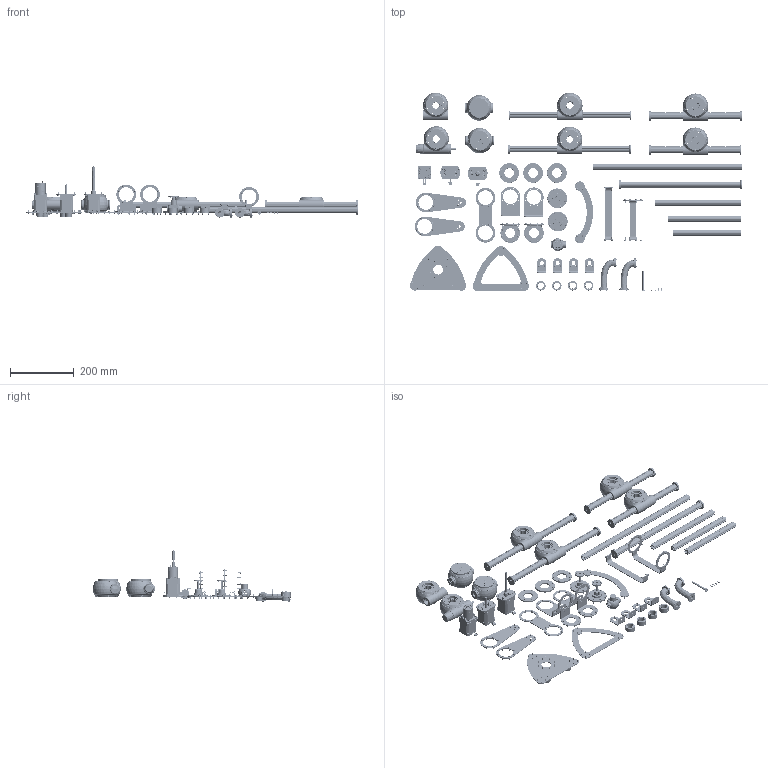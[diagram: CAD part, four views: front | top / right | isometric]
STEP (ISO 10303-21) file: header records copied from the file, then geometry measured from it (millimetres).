
FILE_DESCRIPTION(/* description */ (''),/* implementation_level */ '2;1');
FILE_NAME(/* name */ 'C:\ProgramData\PROCAD GmbH & Co. KG\NdfWork\605868_NdfWork\D00424499.step',/* time_stamp */ '2023-08-24T08:52:47+02:00',/* author */ ('fberger'),/* organization */ ('igus GmbH'),/* preprocessor_version */ 'ST-DEVELOPER v18.1',/* originating_system */ 'Autodesk Inventor 2022',/* authorisation */ '');
FILE_SCHEMA (('AUTOMOTIVE_DESIGN { 1 0 10303 214 3 1 1 }'));
Products named in the file (99): D00424499.iam; D00192674.iam; D00169186.ipt; D00188918.ipt; D00184198.ipt; D00239699.ipt; D00188941.ipt; D00192475.ipt; D00169073.ipt; D00191511.iam; D00223882.ipt; D00413711.iam; D00386364.ipt; D00416512.ipt; D00169142.ipt; D00241455.ipt; D00255010.ipt; D00226396.iam; D00191548.iam; D00169246; D00204954.iam; D00199435.iam; D00169642.ipt; D00169099.ipt; D00169185; D00187704.ipt; D00187707.ipt; D00204922.ipt; D00338631.ipt; D00169074.ipt; D00170045.ipt; D00204933.ipt; D00215808.ipt; D00230876.ipt; D00169100; D00415155.ipt; D00422943.ipt; D00423959.ipt; D00423450.ipt; D00200879.iam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
Assembly tree (420 placements, depth 4):
  D00424499.iam
    D00192674.iam
      D00169642.ipt  x2
      D00169186.ipt  x2
      D00188918.ipt  x2
      D00184198.ipt  x4
      D00239699.ipt
      D00188941.ipt  x2
      D00169185  x2
      D00187704.ipt  x2
      D00187700.ipt  x4
      D00187707.ipt  x4
      D00192475.ipt
      D00169074.ipt  x2
      D00170045.ipt  x2
      D00169073.ipt
    D00191511.iam
      D00169642.ipt  x2
      D00223882.ipt  x2
      D00169185  x2
      D00187704.ipt  x2
      D00187700.ipt  x4
      D00187707.ipt  x4
      D00169246
      D00169074.ipt  x2
      D00170045.ipt  x2
    D00413711.iam  x2
      D00386364.ipt
      D00416512.ipt
      D00169185
      D00187704.ipt
      D00187700.ipt
      D00187707.ipt
      D00169074.ipt
      D00170045.ipt
      D00204922.ipt
      D00338631.ipt
      D00169142.ipt
      D00204933.ipt
      D00241455.ipt
      D00255010.ipt
    D00226396.iam  x2
      D00191548.iam
        D00169642.ipt  x2
        D00169099.ipt  x2
        D00169185  x2
        D00187704.ipt  x2
        D00187700.ipt  x4
        D00187707.ipt  x4
        D00169246
        D00169074.ipt  x2
        D00170045.ipt  x2
      D00226401.ipt
      D00230881.ipt
      D00169100
      D00209450.ipt
      D00230906.ipt
    D00204954.iam  x2
      D00199435.iam
        D00169642.ipt  x2
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Bounding box: 1042.23 x 623.22 x 160.5 mm (x, y, z)
Volume: 2087910.4 mm3; surface area: 1723928 mm2
Topology: 853 solids, 989 shells, 17991 faces, 45078 edges, 29457 vertices
Faces by surface type: cylinder 8219, plane 4306, cone 1915, bspline 1617, torus 1397, sphere 537
Full cylindrical faces by diameter (mm): 1 x12, 2 x25, 2.4 x232, 2.459 x87, 2.5 x8, 2.7 x8, 2.8 x8, 2.828 x119, 3 x329, 3.2 x4, 3.242 x19, 3.3 x268, 3.5 x70, 3.99 x10, 4 x166, 4.3 x12, 4.5 x2, 4.8 x6, 5 x16, 5.05 x3, 5.3 x196, 5.5 x18, 5.6 x111, 6 x37, 6.3 x2, 6.5 x2, 7 x6, 7.5 x6, 8 x21, 8.32 x2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
Entity records: 99800 total; most frequent: CARTESIAN_POINT 25451, DIRECTION 15620, ORIENTED_EDGE 13563, EDGE_CURVE 6844, AXIS2_PLACEMENT_3D 6271, VERTEX_POINT 4573, EDGE_LOOP 3469, CIRCLE 3134
